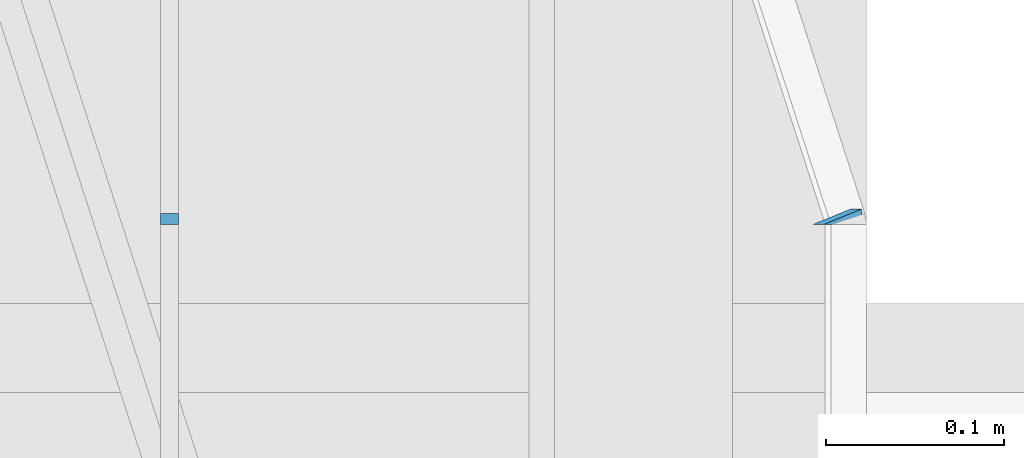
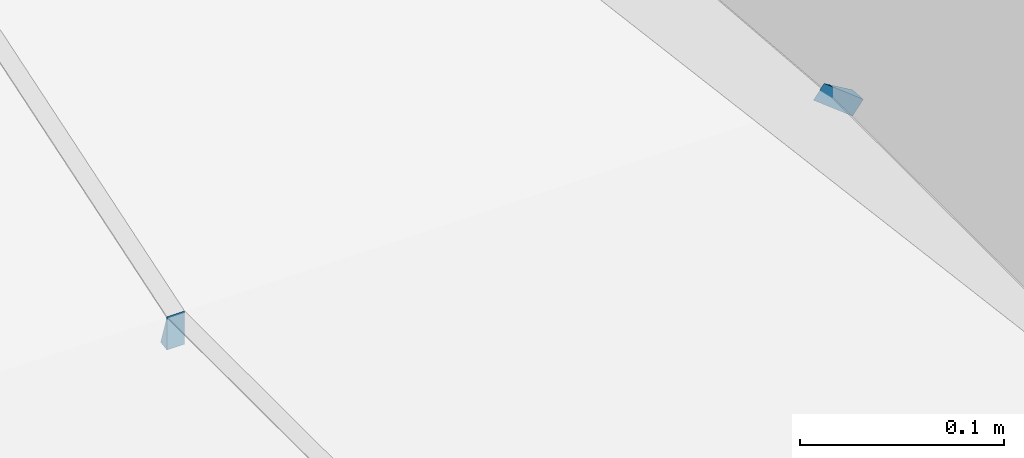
# One storey, part 372 of 583: 2 slabs.
"""IFC2X3 building model written with IfcOpenShell, lengths in metres."""

from ifc_helpers import new_model, entity, si_unit, converted_unit, derived_unit, money_unit, direction, frame, origin_with_axes, place, context, subcontext, project, spatial, faceted_brep, material, type_object, element, save


model = new_model("IFC2X3")

# Units and contexts
model_context = context("Model", 3, precision=1e-05, world=origin_with_axes(), true_north=direction((0.0, 1.0)))
body_context = subcontext(model_context, "Body", "Model", "MODEL_VIEW", scale=1.0)
ifc_project = project(units=[si_unit("LENGTHUNIT", "METRE"), si_unit("AREAUNIT", "SQUARE_METRE"), si_unit("VOLUMEUNIT", "CUBIC_METRE"), si_unit("ABSORBEDDOSEUNIT", "GRAY"), si_unit("AMOUNTOFSUBSTANCEUNIT", "MOLE"), si_unit("DOSEEQUIVALENTUNIT", "SIEVERT"), si_unit("ELECTRICCAPACITANCEUNIT", "FARAD"), si_unit("ELECTRICCHARGEUNIT", "COULOMB"), si_unit("ELECTRICCONDUCTANCEUNIT", "SIEMENS"), si_unit("ELECTRICCURRENTUNIT", "AMPERE"), si_unit("ELECTRICRESISTANCEUNIT", "OHM"), si_unit("ELECTRICVOLTAGEUNIT", "VOLT"), si_unit("ENERGYUNIT", "JOULE"), si_unit("FORCEUNIT", "NEWTON"), si_unit("FREQUENCYUNIT", "HERTZ"), si_unit("ILLUMINANCEUNIT", "LUX"), si_unit("INDUCTANCEUNIT", "HENRY"), si_unit("LUMINOUSFLUXUNIT", "LUMEN"), si_unit("LUMINOUSINTENSITYUNIT", "CANDELA"), si_unit("MAGNETICFLUXDENSITYUNIT", "TESLA"), si_unit("MAGNETICFLUXUNIT", "WEBER"), si_unit("MASSUNIT", "GRAM"), converted_unit("PLANEANGLEUNIT", "degree", entity("IfcReal", 0.0174532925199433), si_unit("PLANEANGLEUNIT", "RADIAN"), dimensions=[0, 0, 0, 0, 0, 0, 0]), si_unit("POWERUNIT", "WATT"), si_unit("PRESSUREUNIT", "PASCAL"), si_unit("RADIOACTIVITYUNIT", "BECQUEREL"), si_unit("SOLIDANGLEUNIT", "STERADIAN"), si_unit("THERMODYNAMICTEMPERATUREUNIT", "KELVIN"), si_unit("TIMEUNIT", "SECOND"), derived_unit("ACCELERATIONUNIT", [(si_unit("LENGTHUNIT", "METRE"), 1), (si_unit("TIMEUNIT", "SECOND"), -2)]), derived_unit("ANGULARVELOCITYUNIT", [(converted_unit("PLANEANGLEUNIT", "degree", entity("IfcReal", 0.0174532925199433), si_unit("PLANEANGLEUNIT", "RADIAN"), dimensions=[0, 0, 0, 0, 0, 0, 0]), 1), (si_unit("TIMEUNIT", "SECOND"), -1)]), derived_unit("CURVATUREUNIT", [(converted_unit("PLANEANGLEUNIT", "degree", entity("IfcReal", 0.0174532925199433), si_unit("PLANEANGLEUNIT", "RADIAN"), dimensions=[0, 0, 0, 0, 0, 0, 0]), 1), (si_unit("LENGTHUNIT", "METRE"), -1)]), derived_unit("DYNAMICVISCOSITYUNIT", [(si_unit("PRESSUREUNIT", "PASCAL"), 1), (si_unit("TIMEUNIT", "SECOND"), 1)]), derived_unit("HEATFLUXDENSITYUNIT", [(si_unit("POWERUNIT", "WATT"), 1), (si_unit("LENGTHUNIT", "METRE"), -2)]), derived_unit("HEATINGVALUEUNIT", [(si_unit("ENERGYUNIT", "JOULE"), 1), (si_unit("MASSUNIT", "GRAM"), -1)]), derived_unit("INTEGERCOUNTRATEUNIT", [(si_unit("TIMEUNIT", "SECOND"), -1)]), derived_unit("IONCONCENTRATIONUNIT", [(si_unit("MASSUNIT", "GRAM"), 1), (si_unit("VOLUMEUNIT", "CUBIC_METRE"), -1)]), derived_unit("ISOTHERMALMOISTURECAPACITYUNIT", [(si_unit("VOLUMEUNIT", "CUBIC_METRE"), 1), (si_unit("MASSUNIT", "GRAM"), -1)]), derived_unit("KINEMATICVISCOSITYUNIT", [(si_unit("AREAUNIT", "SQUARE_METRE"), 1), (si_unit("TIMEUNIT", "SECOND"), -1)]), derived_unit("LINEARFORCEUNIT", [(si_unit("FORCEUNIT", "NEWTON"), 1), (si_unit("LENGTHUNIT", "METRE"), -1)]), derived_unit("LINEARMOMENTUNIT", [(si_unit("FORCEUNIT", "NEWTON"), 1), (si_unit("LENGTHUNIT", "METRE"), -1)]), derived_unit("LINEARSTIFFNESSUNIT", [(si_unit("FORCEUNIT", "NEWTON"), 1), (si_unit("LENGTHUNIT", "METRE"), -1)]), derived_unit("LINEARVELOCITYUNIT", [(si_unit("LENGTHUNIT", "METRE"), 1), (si_unit("TIMEUNIT", "SECOND"), -1)]), derived_unit("LUMINOUSINTENSITYDISTRIBUTIONUNIT", [(si_unit("LUMINOUSINTENSITYUNIT", "CANDELA"), 1), (si_unit("LUMINOUSFLUXUNIT", "LUMEN"), -1)]), derived_unit("MASSDENSITYUNIT", [(si_unit("MASSUNIT", "GRAM"), 1), (si_unit("VOLUMEUNIT", "CUBIC_METRE"), -1)]), derived_unit("MASSFLOWRATEUNIT", [(si_unit("MASSUNIT", "GRAM"), 1), (si_unit("TIMEUNIT", "SECOND"), -1)]), derived_unit("MASSPERLENGTHUNIT", [(si_unit("MASSUNIT", "GRAM"), 1), (si_unit("LENGTHUNIT", "METRE"), -1)]), derived_unit("MODULUSOFELASTICITYUNIT", [(si_unit("FORCEUNIT", "NEWTON"), 1), (si_unit("AREAUNIT", "SQUARE_METRE"), -1)]), derived_unit("MODULUSOFLINEARSUBGRADEREACTIONUNIT", [(si_unit("FORCEUNIT", "NEWTON"), 1), (si_unit("LENGTHUNIT", "METRE"), -2)]), derived_unit("MODULUSOFROTATIONALSUBGRADEREACTIONUNIT", [(si_unit("FORCEUNIT", "NEWTON"), 1), (si_unit("LENGTHUNIT", "METRE"), 1)]), derived_unit("MODULUSOFSUBGRADEREACTIONUNIT", [(si_unit("FORCEUNIT", "NEWTON"), 1), (si_unit("VOLUMEUNIT", "CUBIC_METRE"), -1)]), derived_unit("MOISTUREDIFFUSIVITYUNIT", [(si_unit("VOLUMEUNIT", "CUBIC_METRE"), 1), (si_unit("TIMEUNIT", "SECOND"), -1)]), derived_unit("MOLECULARWEIGHTUNIT", [(si_unit("MASSUNIT", "GRAM"), 1), (si_unit("AMOUNTOFSUBSTANCEUNIT", "MOLE"), -1)]), derived_unit("PLANARFORCEUNIT", [(si_unit("FORCEUNIT", "NEWTON"), 1), (si_unit("LENGTHUNIT", "METRE"), -2)]), derived_unit("ROTATIONALFREQUENCYUNIT", [(si_unit("TIMEUNIT", "SECOND"), -1)]), derived_unit("ROTATIONALMASSUNIT", [(si_unit("MASSUNIT", "GRAM"), 1), (si_unit("LENGTHUNIT", "METRE"), 2)]), derived_unit("ROTATIONALSTIFFNESSUNIT", [(si_unit("FORCEUNIT", "NEWTON"), 1), (si_unit("LENGTHUNIT", "METRE"), 1), (converted_unit("PLANEANGLEUNIT", "degree", entity("IfcReal", 0.0174532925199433), si_unit("PLANEANGLEUNIT", "RADIAN"), dimensions=[0, 0, 0, 0, 0, 0, 0]), -1)]), derived_unit("SECTIONAREAINTEGRALUNIT", [(si_unit("LENGTHUNIT", "METRE"), 5)]), derived_unit("SECTIONMODULUSUNIT", [(si_unit("LENGTHUNIT", "METRE"), 3)]), derived_unit("SHEARMODULUSUNIT", [(si_unit("FORCEUNIT", "NEWTON"), 1), (si_unit("AREAUNIT", "SQUARE_METRE"), -1)]), derived_unit("SOUNDPOWERUNIT", [(si_unit("ENERGYUNIT", "JOULE"), 1), (si_unit("TIMEUNIT", "SECOND"), -1)]), derived_unit("SPECIFICHEATCAPACITYUNIT", [(si_unit("FORCEUNIT", "NEWTON"), 1), (si_unit("MASSUNIT", "GRAM"), -1), (si_unit("THERMODYNAMICTEMPERATUREUNIT", "KELVIN"), -1)]), derived_unit("TEMPERATUREGRADIENTUNIT", [(si_unit("THERMODYNAMICTEMPERATUREUNIT", "KELVIN"), 1), (si_unit("LENGTHUNIT", "METRE"), -1)]), derived_unit("THERMALADMITTANCEUNIT", [(si_unit("POWERUNIT", "WATT"), 1), (si_unit("AREAUNIT", "SQUARE_METRE"), -1), (si_unit("THERMODYNAMICTEMPERATUREUNIT", "KELVIN"), -1)]), derived_unit("THERMALCONDUCTANCEUNIT", [(si_unit("POWERUNIT", "WATT"), 1), (si_unit("LENGTHUNIT", "METRE"), -1), (si_unit("THERMODYNAMICTEMPERATUREUNIT", "KELVIN"), -1)]), derived_unit("THERMALEXPANSIONCOEFFICIENTUNIT", [(si_unit("THERMODYNAMICTEMPERATUREUNIT", "KELVIN"), -1)]), derived_unit("THERMALRESISTANCEUNIT", [(si_unit("AREAUNIT", "SQUARE_METRE"), 1), (si_unit("POWERUNIT", "WATT"), -1)]), derived_unit("THERMALTRANSMITTANCEUNIT", [(si_unit("POWERUNIT", "WATT"), 1), (si_unit("AREAUNIT", "SQUARE_METRE"), -1), (si_unit("THERMODYNAMICTEMPERATUREUNIT", "KELVIN"), -1)]), derived_unit("TORQUEUNIT", [(si_unit("FORCEUNIT", "NEWTON"), 1), (si_unit("LENGTHUNIT", "METRE"), 1)]), derived_unit("VAPORPERMEABILITYUNIT", [(si_unit("MASSUNIT", "GRAM"), 1), (si_unit("TIMEUNIT", "SECOND"), -1)]), derived_unit("VOLUMETRICFLOWRATEUNIT", [(si_unit("VOLUMEUNIT", "CUBIC_METRE"), 1), (si_unit("TIMEUNIT", "SECOND"), -1)]), derived_unit("WARPINGCONSTANTUNIT", [(si_unit("LENGTHUNIT", "METRE"), 6)]), derived_unit("WARPINGMOMENTUNIT", [(si_unit("FORCEUNIT", "NEWTON"), 1), (si_unit("LENGTHUNIT", "METRE"), 2)]), money_unit("GBP")], contexts=[model_context])

# Site, building, storey
site_placement = place(None, origin_with_axes())
site = spatial("IfcSite", under=ifc_project, at=site_placement, Name="Site", CompositionType="ELEMENT")
building_placement = place(site_placement, origin_with_axes())
building = spatial("IfcBuilding", under=site, at=building_placement, Name="Building01", CompositionType="ELEMENT")
storey_placement = place(building_placement, frame((0.0, 0.0, 20.78), z_axis=(0.0, 0.0, 1.0), x_axis=(1.0, 0.0, 0.0)))
storey = spatial("IfcBuildingStorey", under=building, at=storey_placement, Name="RL", CompositionType="ELEMENT", Elevation=20.78)

# Slabs
ifc_material = material(Name="A_BSUK_Roofs")
slab_type = type_object("IfcSlabType", Name="A-FloorsSlabs A_BSUK_Slabs", PredefinedType="FLOOR")
slab_1_placement = place(storey_placement, frame((14.003453, 16.280608, -20.279021), z_axis=(0.0, 1.0, 0.0), x_axis=(-1.0, 0.0, 0.0)))
element("IfcSlab", 1, at=slab_1_placement, inside=storey, type_object=slab_type, material=ifc_material, Name="A-FloorsSlabs A_BSUK_Slabs", ObjectType="A-FloorsSlabs A_BSUK_Slabs", context=body_context, shape_type="Brep", body=[
    faceted_brep([(0.0, 0.0, 0.0), (-0.01, 0.0, 0.0), (-0.01, -0.000979, -0.00618), (0.0, -0.000979, -0.00618), (-0.01, 0.019021, -0.00618), (0.0, 0.019021, -0.00618)], [[[0, 1, 2, 3]], [[3, 2, 4, 5]], [[5, 4, 1, 0]], [[1, 4, 2]], [[3, 5, 0]]]),
])
slab_2_placement = place(storey_placement, frame((14.398398, 16.280618, -20.268111), z_axis=(0.0, 1.0, 0.0), x_axis=(-0.61416219, 0.0, -0.78917983)))
element("IfcSlab", 2, at=slab_2_placement, inside=storey, type_object=slab_type, material=ifc_material, Name="A-FloorsSlabs A_BSUK_Slabs", ObjectType="A-FloorsSlabs A_BSUK_Slabs", context=body_context, shape_type="Brep", body=[
    faceted_brep([(-4.1e-05, 0.000213, -0.00619), (0.009969, 0.000213, -0.00619), (0.009969, 0.001593, 0.002526), (-4.1e-05, 0.001593, 0.002526), (-4.1e-05, 0.028418, -0.00619), (0.009969, 0.028418, -0.00619)], [[[0, 1, 2, 3]], [[4, 5, 1, 0]], [[3, 2, 5, 4]], [[1, 5, 2]], [[3, 4, 0]]]),
])

save(model, "model.ifc")
